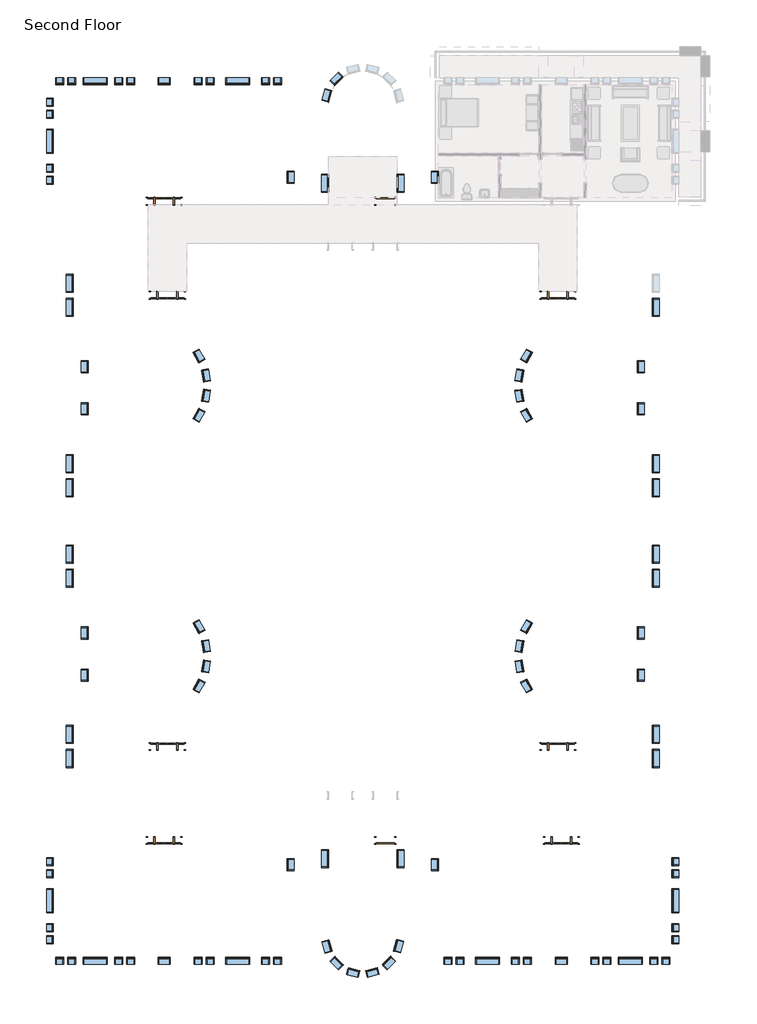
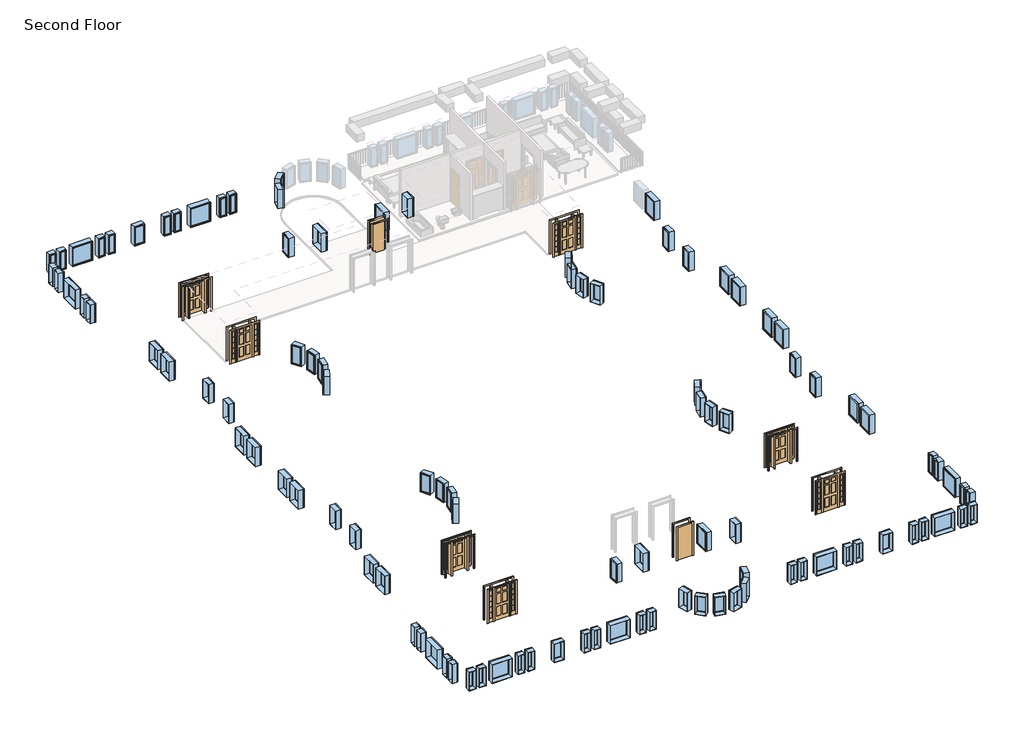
# One storey, part 1 of 2: 103 windows, 9 doors.
"""IFC4 building model written with IfcOpenShell, lengths in millimetres."""

from ifc_helpers import new_model, si_unit, origin, place, context, project, spatial, transform, mapped, element, save
from components import door_632be17d, door_cc5399a4, door_dba5aa2e, door_ffdb1193, window_da97879f, window_d61ef850, window_60baf983, window_ed80354a, window_15c49d37, window_0e2fc6ce, window_6eb97611, window_d89bf842

model = new_model("IFC4")

# Units and contexts
model_context = context("Model", 3, world=origin())
ifc_project = project(units=[si_unit("LENGTHUNIT", "METRE", prefix="MILLI")], contexts=[model_context])

# Site, building, storey
site = spatial("IfcSite", under=ifc_project)
building = spatial("IfcBuilding", under=site)
storey = spatial("IfcBuildingStorey", under=building, Name="Second Floor", Elevation=3048.0)

# Doors
placement = place(None, origin())
door_shape = door_632be17d(model_context)
element("IfcDoor", 1, ObjectType="Single-Flush : 36\" x 84\"", at=placement, inside=storey, context=model_context, shape_type="MappedRepresentation", body=[
    mapped(door_shape, transform((-13919.1714563, 4350.2316867, 3048.0), x_axis=(1.0, 0.0, 0.0), y_axis=(0.0, 1.0, 0.0), z_axis=(0.0, 0.0, 1.0))),
])
door_2_shape = door_cc5399a4(model_context)
element("IfcDoor", 2, ObjectType="Single-Flush : 36\" x 84\"", at=placement, inside=storey, context=model_context, shape_type="MappedRepresentation", body=[
    mapped(door_2_shape, transform((-13919.1714563, -28041.1183133, 3048.0), x_axis=(1.0, 0.0, 0.0), y_axis=(0.0, 1.0, 0.0), z_axis=(0.0, 0.0, 1.0))),
])
door_3_shape = door_dba5aa2e(model_context)
element("IfcDoor", 3, ObjectType="Single-Raised Panel with Sidelights : 36\" x 84\"", at=placement, inside=storey, context=model_context, shape_type="MappedRepresentation", body=[
    mapped(door_3_shape, transform((-24968.1714563, -415.4433133, 3048.0), x_axis=(1.0, 0.0, 0.0), y_axis=(0.0, 1.0, 0.0), z_axis=(0.0, 0.0, 1.0))),
])
element("IfcDoor", 4, ObjectType="Single-Raised Panel with Sidelights : 36\" x 84\"", at=placement, inside=storey, context=model_context, shape_type="MappedRepresentation", body=[
    mapped(door_3_shape, transform((-5156.1714563, -23275.4433133, 3048.0), x_axis=(-1.0, 0.0, 0.0), y_axis=(0.0, -1.0, 0.0), z_axis=(0.0, 0.0, 1.0))),
])
element("IfcDoor", 5, ObjectType="Single-Raised Panel with Sidelights : 36\" x 84\"", at=placement, inside=storey, context=model_context, shape_type="MappedRepresentation", body=[
    mapped(door_3_shape, transform((-25131.6839563, -28041.1183133, 3048.0), x_axis=(1.0, 0.0, 0.0), y_axis=(0.0, 1.0, 0.0), z_axis=(0.0, 0.0, 1.0))),
])
door_4_shape = door_ffdb1193(model_context)
element("IfcDoor", 6, ObjectType="Single-Raised Panel with Sidelights : 36\" x 84\"", at=placement, inside=storey, context=model_context, shape_type="MappedRepresentation", body=[
    mapped(door_4_shape, transform((-5156.1714563, -415.4433133, 3048.0), x_axis=(-1.0, 0.0, 0.0), y_axis=(0.0, -1.0, 0.0), z_axis=(0.0, 0.0, 1.0))),
])
element("IfcDoor", 7, ObjectType="Single-Raised Panel with Sidelights : 36\" x 84\"", at=placement, inside=storey, context=model_context, shape_type="MappedRepresentation", body=[
    mapped(door_4_shape, transform((-25131.6839563, 4350.2316867, 3048.0), x_axis=(1.0, 0.0, 0.0), y_axis=(0.0, 1.0, 0.0), z_axis=(0.0, 0.0, 1.0))),
])
element("IfcDoor", 8, ObjectType="Single-Raised Panel with Sidelights : 36\" x 84\"", at=placement, inside=storey, context=model_context, shape_type="MappedRepresentation", body=[
    mapped(door_4_shape, transform((-4992.6589563, -28041.1183133, 3048.0), x_axis=(-1.0, 0.0, 0.0), y_axis=(0.0, -1.0, 0.0), z_axis=(0.0, 0.0, 1.0))),
])
element("IfcDoor", 9, ObjectType="Single-Raised Panel with Sidelights : 36\" x 84\"", at=placement, inside=storey, context=model_context, shape_type="MappedRepresentation", body=[
    mapped(door_4_shape, transform((-24968.1714563, -23275.4433133, 3048.0), x_axis=(1.0, 0.0, 0.0), y_axis=(0.0, 1.0, 0.0), z_axis=(0.0, 0.0, 1.0))),
])

# Windows
window_shape = window_da97879f(model_context)
element("IfcWindow", 10, ObjectType="Fixed : 16\" x 48\"", at=placement, inside=storey, context=model_context, shape_type="MappedRepresentation", body=[
    mapped(window_shape, transform((-23442.5839563, 10446.2316867, 3048.0), x_axis=(-1.0, 0.0, 0.0), y_axis=(0.0, -1.0, 0.0), z_axis=(0.0, 0.0, 1.0))),
])
element("IfcWindow", 11, ObjectType="Fixed : 16\" x 48\"", at=placement, inside=storey, context=model_context, shape_type="MappedRepresentation", body=[
    mapped(window_shape, transform((-22832.9839563, 10446.2316867, 3048.0), x_axis=(-1.0, 0.0, 0.0), y_axis=(0.0, -1.0, 0.0), z_axis=(0.0, 0.0, 1.0))),
])
element("IfcWindow", 12, ObjectType="Fixed : 16\" x 48\"", at=placement, inside=storey, context=model_context, shape_type="MappedRepresentation", body=[
    mapped(window_shape, transform((-30478.3839563, 10446.2316867, 3048.0), x_axis=(-1.0, 0.0, 0.0), y_axis=(0.0, -1.0, 0.0), z_axis=(0.0, 0.0, 1.0))),
])
element("IfcWindow", 13, ObjectType="Fixed : 16\" x 48\"", at=placement, inside=storey, context=model_context, shape_type="MappedRepresentation", body=[
    mapped(window_shape, transform((-29868.7839563, 10446.2316867, 3048.0), x_axis=(-1.0, 0.0, 0.0), y_axis=(0.0, -1.0, 0.0), z_axis=(0.0, 0.0, 1.0))),
])
element("IfcWindow", 14, ObjectType="Fixed : 16\" x 48\"", at=placement, inside=storey, context=model_context, shape_type="MappedRepresentation", body=[
    mapped(window_shape, transform((-30922.8839563, 5378.9316867, 3048.0), x_axis=(0.0, -1.0, 0.0), y_axis=(1.0, 0.0, 0.0), z_axis=(0.0, 0.0, 1.0))),
])
element("IfcWindow", 15, ObjectType="Fixed : 16\" x 48\"", at=placement, inside=storey, context=model_context, shape_type="MappedRepresentation", body=[
    mapped(window_shape, transform((-30922.8839563, 5988.5316867, 3048.0), x_axis=(0.0, -1.0, 0.0), y_axis=(1.0, 0.0, 0.0), z_axis=(0.0, 0.0, 1.0))),
])
element("IfcWindow", 16, ObjectType="Fixed : 16\" x 48\"", at=placement, inside=storey, context=model_context, shape_type="MappedRepresentation", body=[
    mapped(window_shape, transform((-6681.7589563, -34137.1183133, 3048.0), x_axis=(1.0, 0.0, 0.0), y_axis=(0.0, 1.0, 0.0), z_axis=(0.0, 0.0, 1.0))),
])
element("IfcWindow", 17, ObjectType="Fixed : 16\" x 48\"", at=placement, inside=storey, context=model_context, shape_type="MappedRepresentation", body=[
    mapped(window_shape, transform((-7291.3589563, -34137.1183133, 3048.0), x_axis=(1.0, 0.0, 0.0), y_axis=(0.0, 1.0, 0.0), z_axis=(0.0, 0.0, 1.0))),
])
element("IfcWindow", 18, ObjectType="Fixed : 16\" x 48\"", at=placement, inside=storey, context=model_context, shape_type="MappedRepresentation", body=[
    mapped(window_shape, transform((354.0410437, -34137.1183133, 3048.0), x_axis=(1.0, 0.0, 0.0), y_axis=(0.0, 1.0, 0.0), z_axis=(0.0, 0.0, 1.0))),
])
element("IfcWindow", 19, ObjectType="Fixed : 16\" x 48\"", at=placement, inside=storey, context=model_context, shape_type="MappedRepresentation", body=[
    mapped(window_shape, transform((-255.5589563, -34137.1183133, 3048.0), x_axis=(1.0, 0.0, 0.0), y_axis=(0.0, 1.0, 0.0), z_axis=(0.0, 0.0, 1.0))),
])
element("IfcWindow", 20, ObjectType="Fixed : 16\" x 48\"", at=placement, inside=storey, context=model_context, shape_type="MappedRepresentation", body=[
    mapped(window_shape, transform((798.5410437, -29069.8183133, 3048.0), x_axis=(0.0, 1.0, 0.0), y_axis=(-1.0, 0.0, 0.0), z_axis=(0.0, 0.0, 1.0))),
])
element("IfcWindow", 21, ObjectType="Fixed : 16\" x 48\"", at=placement, inside=storey, context=model_context, shape_type="MappedRepresentation", body=[
    mapped(window_shape, transform((798.5410437, -29679.4183133, 3048.0), x_axis=(0.0, 1.0, 0.0), y_axis=(-1.0, 0.0, 0.0), z_axis=(0.0, 0.0, 1.0))),
])
element("IfcWindow", 22, ObjectType="Fixed : 16\" x 48\"", at=placement, inside=storey, context=model_context, shape_type="MappedRepresentation", body=[
    mapped(window_shape, transform((-19353.1839563, -34137.1183133, 3048.0), x_axis=(1.0, 0.0, 0.0), y_axis=(0.0, 1.0, 0.0), z_axis=(0.0, 0.0, 1.0))),
])
element("IfcWindow", 23, ObjectType="Fixed : 16\" x 48\"", at=placement, inside=storey, context=model_context, shape_type="MappedRepresentation", body=[
    mapped(window_shape, transform((-19962.7839563, -34137.1183133, 3048.0), x_axis=(1.0, 0.0, 0.0), y_axis=(0.0, 1.0, 0.0), z_axis=(0.0, 0.0, 1.0))),
])
element("IfcWindow", 24, ObjectType="Fixed : 16\" x 48\"", at=placement, inside=storey, context=model_context, shape_type="MappedRepresentation", body=[
    mapped(window_shape, transform((-26795.3839563, -34137.1183133, 3048.0), x_axis=(1.0, 0.0, 0.0), y_axis=(0.0, 1.0, 0.0), z_axis=(0.0, 0.0, 1.0))),
])
element("IfcWindow", 25, ObjectType="Fixed : 16\" x 48\"", at=placement, inside=storey, context=model_context, shape_type="MappedRepresentation", body=[
    mapped(window_shape, transform((-27404.9839563, -34137.1183133, 3048.0), x_axis=(1.0, 0.0, 0.0), y_axis=(0.0, 1.0, 0.0), z_axis=(0.0, 0.0, 1.0))),
])
element("IfcWindow", 26, ObjectType="Fixed : 16\" x 48\"", at=placement, inside=storey, context=model_context, shape_type="MappedRepresentation", body=[
    mapped(window_shape, transform((-30922.8839563, -33108.4183133, 3048.0), x_axis=(0.0, -1.0, 0.0), y_axis=(1.0, 0.0, 0.0), z_axis=(0.0, 0.0, 1.0))),
])
element("IfcWindow", 27, ObjectType="Fixed : 16\" x 48\"", at=placement, inside=storey, context=model_context, shape_type="MappedRepresentation", body=[
    mapped(window_shape, transform((-30922.8839563, -32498.8183133, 3048.0), x_axis=(0.0, -1.0, 0.0), y_axis=(1.0, 0.0, 0.0), z_axis=(0.0, 0.0, 1.0))),
])
window_2_shape = window_d61ef850(model_context)
element("IfcWindow", 28, ObjectType="Fixed : 16\" x 48\"", at=placement, inside=storey, context=model_context, shape_type="MappedRepresentation", body=[
    mapped(window_2_shape, transform((-19353.1839563, 10446.2316867, 3048.0), x_axis=(1.0, 0.0, 0.0), y_axis=(0.0, 1.0, 0.0), z_axis=(0.0, 0.0, 1.0))),
])
element("IfcWindow", 29, ObjectType="Fixed : 16\" x 48\"", at=placement, inside=storey, context=model_context, shape_type="MappedRepresentation", body=[
    mapped(window_2_shape, transform((-19962.7839563, 10446.2316867, 3048.0), x_axis=(1.0, 0.0, 0.0), y_axis=(0.0, 1.0, 0.0), z_axis=(0.0, 0.0, 1.0))),
])
element("IfcWindow", 30, ObjectType="Fixed : 16\" x 48\"", at=placement, inside=storey, context=model_context, shape_type="MappedRepresentation", body=[
    mapped(window_2_shape, transform((-26795.3839563, 10446.2316867, 3048.0), x_axis=(1.0, 0.0, 0.0), y_axis=(0.0, 1.0, 0.0), z_axis=(0.0, 0.0, 1.0))),
])
element("IfcWindow", 31, ObjectType="Fixed : 16\" x 48\"", at=placement, inside=storey, context=model_context, shape_type="MappedRepresentation", body=[
    mapped(window_2_shape, transform((-27404.9839563, 10446.2316867, 3048.0), x_axis=(1.0, 0.0, 0.0), y_axis=(0.0, 1.0, 0.0), z_axis=(0.0, 0.0, 1.0))),
])
element("IfcWindow", 32, ObjectType="Fixed : 16\" x 48\"", at=placement, inside=storey, context=model_context, shape_type="MappedRepresentation", body=[
    mapped(window_2_shape, transform((-30922.8839563, 9417.5316867, 3048.0), x_axis=(0.0, 1.0, 0.0), y_axis=(-1.0, 0.0, 0.0), z_axis=(0.0, 0.0, 1.0))),
])
element("IfcWindow", 33, ObjectType="Fixed : 16\" x 48\"", at=placement, inside=storey, context=model_context, shape_type="MappedRepresentation", body=[
    mapped(window_2_shape, transform((-30922.8839563, 8807.9316867, 3048.0), x_axis=(0.0, 1.0, 0.0), y_axis=(-1.0, 0.0, 0.0), z_axis=(0.0, 0.0, 1.0))),
])
element("IfcWindow", 34, ObjectType="Fixed : 16\" x 48\"", at=placement, inside=storey, context=model_context, shape_type="MappedRepresentation", body=[
    mapped(window_2_shape, transform((-10771.1589563, -34137.1183133, 3048.0), x_axis=(-1.0, 0.0, 0.0), y_axis=(0.0, -1.0, 0.0), z_axis=(0.0, 0.0, 1.0))),
])
element("IfcWindow", 35, ObjectType="Fixed : 16\" x 48\"", at=placement, inside=storey, context=model_context, shape_type="MappedRepresentation", body=[
    mapped(window_2_shape, transform((-10161.5589563, -34137.1183133, 3048.0), x_axis=(-1.0, 0.0, 0.0), y_axis=(0.0, -1.0, 0.0), z_axis=(0.0, 0.0, 1.0))),
])
element("IfcWindow", 36, ObjectType="Fixed : 16\" x 48\"", at=placement, inside=storey, context=model_context, shape_type="MappedRepresentation", body=[
    mapped(window_2_shape, transform((-3328.9589563, -34137.1183133, 3048.0), x_axis=(-1.0, 0.0, 0.0), y_axis=(0.0, -1.0, 0.0), z_axis=(0.0, 0.0, 1.0))),
])
element("IfcWindow", 37, ObjectType="Fixed : 16\" x 48\"", at=placement, inside=storey, context=model_context, shape_type="MappedRepresentation", body=[
    mapped(window_2_shape, transform((-2719.3589563, -34137.1183133, 3048.0), x_axis=(-1.0, 0.0, 0.0), y_axis=(0.0, -1.0, 0.0), z_axis=(0.0, 0.0, 1.0))),
])
element("IfcWindow", 38, ObjectType="Fixed : 16\" x 48\"", at=placement, inside=storey, context=model_context, shape_type="MappedRepresentation", body=[
    mapped(window_2_shape, transform((798.5410437, -33108.4183133, 3048.0), x_axis=(0.0, -1.0, 0.0), y_axis=(1.0, 0.0, 0.0), z_axis=(0.0, 0.0, 1.0))),
])
element("IfcWindow", 39, ObjectType="Fixed : 16\" x 48\"", at=placement, inside=storey, context=model_context, shape_type="MappedRepresentation", body=[
    mapped(window_2_shape, transform((798.5410437, -32498.8183133, 3048.0), x_axis=(0.0, -1.0, 0.0), y_axis=(1.0, 0.0, 0.0), z_axis=(0.0, 0.0, 1.0))),
])
element("IfcWindow", 40, ObjectType="Fixed : 16\" x 48\"", at=placement, inside=storey, context=model_context, shape_type="MappedRepresentation", body=[
    mapped(window_2_shape, transform((-23442.5839563, -34137.1183133, 3048.0), x_axis=(-1.0, 0.0, 0.0), y_axis=(0.0, -1.0, 0.0), z_axis=(0.0, 0.0, 1.0))),
])
element("IfcWindow", 41, ObjectType="Fixed : 16\" x 48\"", at=placement, inside=storey, context=model_context, shape_type="MappedRepresentation", body=[
    mapped(window_2_shape, transform((-22832.9839563, -34137.1183133, 3048.0), x_axis=(-1.0, 0.0, 0.0), y_axis=(0.0, -1.0, 0.0), z_axis=(0.0, 0.0, 1.0))),
])
element("IfcWindow", 42, ObjectType="Fixed : 16\" x 48\"", at=placement, inside=storey, context=model_context, shape_type="MappedRepresentation", body=[
    mapped(window_2_shape, transform((-30478.3839563, -34137.1183133, 3048.0), x_axis=(-1.0, 0.0, 0.0), y_axis=(0.0, -1.0, 0.0), z_axis=(0.0, 0.0, 1.0))),
])
element("IfcWindow", 43, ObjectType="Fixed : 16\" x 48\"", at=placement, inside=storey, context=model_context, shape_type="MappedRepresentation", body=[
    mapped(window_2_shape, transform((-29868.7839563, -34137.1183133, 3048.0), x_axis=(-1.0, 0.0, 0.0), y_axis=(0.0, -1.0, 0.0), z_axis=(0.0, 0.0, 1.0))),
])
element("IfcWindow", 44, ObjectType="Fixed : 16\" x 48\"", at=placement, inside=storey, context=model_context, shape_type="MappedRepresentation", body=[
    mapped(window_2_shape, transform((-30922.8839563, -29069.8183133, 3048.0), x_axis=(0.0, 1.0, 0.0), y_axis=(-1.0, 0.0, 0.0), z_axis=(0.0, 0.0, 1.0))),
])
element("IfcWindow", 45, ObjectType="Fixed : 16\" x 48\"", at=placement, inside=storey, context=model_context, shape_type="MappedRepresentation", body=[
    mapped(window_2_shape, transform((-30922.8839563, -29679.4183133, 3048.0), x_axis=(0.0, 1.0, 0.0), y_axis=(-1.0, 0.0, 0.0), z_axis=(0.0, 0.0, 1.0))),
])
window_3_shape = window_60baf983(model_context)
element("IfcWindow", 46, ObjectType="Fixed : 24\" x 48\"", at=placement, inside=storey, context=model_context, shape_type="MappedRepresentation", body=[
    mapped(window_3_shape, transform((-11393.4589563, 5531.3316867, 3048.0), x_axis=(0.0, -1.0, 0.0), y_axis=(1.0, 0.0, 0.0), z_axis=(0.0, 0.0, 1.0))),
])
element("IfcWindow", 47, ObjectType="Fixed : 24\" x 48\"", at=placement, inside=storey, context=model_context, shape_type="MappedRepresentation", body=[
    mapped(window_3_shape, transform((-16889.064163, 9683.0417496, 3048.0), x_axis=(-0.26176149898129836, -0.9651325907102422, 0.0), y_axis=(0.9651325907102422, -0.26176149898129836, 0.0), z_axis=(0.0, 0.0, 1.0))),
])
element("IfcWindow", 48, ObjectType="Fixed : 24\" x 48\"", at=placement, inside=storey, context=model_context, shape_type="MappedRepresentation", body=[
    mapped(window_3_shape, transform((-16416.3019188, 10535.3943388, 3048.0), x_axis=(-0.7092584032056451, -0.7049485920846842, 0.0), y_axis=(0.7049485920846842, -0.7092584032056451, 0.0), z_axis=(0.0, 0.0, 1.0))),
])
element("IfcWindow", 49, ObjectType="Fixed : 24\" x 48\"", at=placement, inside=storey, context=model_context, shape_type="MappedRepresentation", body=[
    mapped(window_3_shape, transform((-6775.1467215, -3515.2965337, 3048.0), x_axis=(-0.49619108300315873, -0.8682133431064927, 0.0), y_axis=(0.8682133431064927, -0.49619108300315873, 0.0), z_axis=(0.0, 0.0, 1.0))),
])
element("IfcWindow", 50, ObjectType="Fixed : 24\" x 48\"", at=placement, inside=storey, context=model_context, shape_type="MappedRepresentation", body=[
    mapped(window_3_shape, transform((-7118.4751134, -4510.097297, 3048.0), x_axis=(-0.16973229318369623, -0.9854902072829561, 0.0), y_axis=(0.9854902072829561, -0.16973229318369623, 0.0), z_axis=(0.0, 0.0, 1.0))),
])
element("IfcWindow", 51, ObjectType="Fixed : 24\" x 48\"", at=placement, inside=storey, context=model_context, shape_type="MappedRepresentation", body=[
    mapped(window_3_shape, transform((-29159.1714563, -4071.4558133, 3048.0), x_axis=(0.0, -1.0, 0.0), y_axis=(1.0, 0.0, 0.0), z_axis=(0.0, 0.0, 1.0))),
])
element("IfcWindow", 52, ObjectType="Fixed : 24\" x 48\"", at=placement, inside=storey, context=model_context, shape_type="MappedRepresentation", body=[
    mapped(window_3_shape, transform((-29159.1714563, -6205.0558133, 3048.0), x_axis=(0.0, -1.0, 0.0), y_axis=(1.0, 0.0, 0.0), z_axis=(0.0, 0.0, 1.0))),
])
element("IfcWindow", 53, ObjectType="Fixed : 24\" x 48\"", at=placement, inside=storey, context=model_context, shape_type="MappedRepresentation", body=[
    mapped(window_3_shape, transform((-23350.7429238, -6458.7061225, 3048.0), x_axis=(0.49619108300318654, 0.8682133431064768, 0.0), y_axis=(-0.8682133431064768, 0.49619108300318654, 0.0), z_axis=(0.0, 0.0, 1.0))),
])
element("IfcWindow", 54, ObjectType="Fixed : 24\" x 48\"", at=placement, inside=storey, context=model_context, shape_type="MappedRepresentation", body=[
    mapped(window_3_shape, transform((-23007.6234621, -5464.4869495, 3048.0), x_axis=(0.16973229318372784, 0.9854902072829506, 0.0), y_axis=(-0.9854902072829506, 0.16973229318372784, 0.0), z_axis=(0.0, 0.0, 1.0))),
])
element("IfcWindow", 55, ObjectType="Fixed : 24\" x 48\"", at=placement, inside=storey, context=model_context, shape_type="MappedRepresentation", body=[
    mapped(window_3_shape, transform((-965.1714563, -19619.4308133, 3048.0), x_axis=(0.0, 1.0, 0.0), y_axis=(-1.0, 0.0, 0.0), z_axis=(0.0, 0.0, 1.0))),
])
element("IfcWindow", 56, ObjectType="Fixed : 24\" x 48\"", at=placement, inside=storey, context=model_context, shape_type="MappedRepresentation", body=[
    mapped(window_3_shape, transform((-965.1714563, -17485.8308133, 3048.0), x_axis=(0.0, 1.0, 0.0), y_axis=(-1.0, 0.0, 0.0), z_axis=(0.0, 0.0, 1.0))),
])
element("IfcWindow", 57, ObjectType="Fixed : 24\" x 48\"", at=placement, inside=storey, context=model_context, shape_type="MappedRepresentation", body=[
    mapped(window_3_shape, transform((-6773.5999888, -17232.1805042, 3048.0), x_axis=(-0.49619108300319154, -0.8682133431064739, 0.0), y_axis=(0.8682133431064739, -0.49619108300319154, 0.0), z_axis=(0.0, 0.0, 1.0))),
])
element("IfcWindow", 58, ObjectType="Fixed : 24\" x 48\"", at=placement, inside=storey, context=model_context, shape_type="MappedRepresentation", body=[
    mapped(window_3_shape, transform((-7116.7194505, -18226.3996771, 3048.0), x_axis=(-0.16973229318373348, -0.9854902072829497, 0.0), y_axis=(0.9854902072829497, -0.16973229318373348, 0.0), z_axis=(0.0, 0.0, 1.0))),
])
element("IfcWindow", 59, ObjectType="Fixed : 24\" x 48\"", at=placement, inside=storey, context=model_context, shape_type="MappedRepresentation", body=[
    mapped(window_3_shape, transform((-25093.5839563, -34137.1183133, 3048.0), x_axis=(1.0, 0.0, 0.0), y_axis=(0.0, 1.0, 0.0), z_axis=(0.0, 0.0, 1.0))),
])
element("IfcWindow", 60, ObjectType="Fixed : 24\" x 48\"", at=placement, inside=storey, context=model_context, shape_type="MappedRepresentation", body=[
    mapped(window_3_shape, transform((-18730.8839563, -29222.2183133, 3048.0), x_axis=(0.0, 1.0, 0.0), y_axis=(-1.0, 0.0, 0.0), z_axis=(0.0, 0.0, 1.0))),
])
element("IfcWindow", 61, ObjectType="Fixed : 24\" x 48\"", at=placement, inside=storey, context=model_context, shape_type="MappedRepresentation", body=[
    mapped(window_3_shape, transform((-23349.1961911, -20175.5900929, 3048.0), x_axis=(0.4961910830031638, 0.8682133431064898, 0.0), y_axis=(-0.8682133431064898, 0.4961910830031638, 0.0), z_axis=(0.0, 0.0, 1.0))),
])
element("IfcWindow", 62, ObjectType="Fixed : 24\" x 48\"", at=placement, inside=storey, context=model_context, shape_type="MappedRepresentation", body=[
    mapped(window_3_shape, transform((-23005.8677992, -19180.7893296, 3048.0), x_axis=(0.169732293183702, 0.9854902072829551, 0.0), y_axis=(-0.9854902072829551, 0.169732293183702, 0.0), z_axis=(0.0, 0.0, 1.0))),
])
window_4_shape = window_ed80354a(model_context)
element("IfcWindow", 63, ObjectType="Fixed : 24\" x 48\"", at=placement, inside=storey, context=model_context, shape_type="MappedRepresentation", body=[
    mapped(window_4_shape, transform((-965.1714563, -4071.4558133, 3048.0), x_axis=(0.0, -1.0, 0.0), y_axis=(1.0, 0.0, 0.0), z_axis=(0.0, 0.0, 1.0))),
])
element("IfcWindow", 64, ObjectType="Fixed : 24\" x 48\"", at=placement, inside=storey, context=model_context, shape_type="MappedRepresentation", body=[
    mapped(window_4_shape, transform((-965.1714563, -6205.0558133, 3048.0), x_axis=(0.0, -1.0, 0.0), y_axis=(1.0, 0.0, 0.0), z_axis=(0.0, 0.0, 1.0))),
])
element("IfcWindow", 65, ObjectType="Fixed : 24\" x 48\"", at=placement, inside=storey, context=model_context, shape_type="MappedRepresentation", body=[
    mapped(window_4_shape, transform((-6775.1467215, -6459.5900929, 3048.0), x_axis=(-0.49619108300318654, 0.8682133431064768, 0.0), y_axis=(-0.8682133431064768, -0.49619108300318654, 0.0), z_axis=(0.0, 0.0, 1.0))),
])
element("IfcWindow", 66, ObjectType="Fixed : 24\" x 48\"", at=placement, inside=storey, context=model_context, shape_type="MappedRepresentation", body=[
    mapped(window_4_shape, transform((-7118.4751134, -5464.7893296, 3048.0), x_axis=(-0.16973229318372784, 0.9854902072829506, 0.0), y_axis=(-0.9854902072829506, -0.16973229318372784, 0.0), z_axis=(0.0, 0.0, 1.0))),
])
element("IfcWindow", 67, ObjectType="Fixed : 24\" x 48\"", at=placement, inside=storey, context=model_context, shape_type="MappedRepresentation", body=[
    mapped(window_4_shape, transform((-25093.5839563, 10446.2316867, 3048.0), x_axis=(1.0, 0.0, 0.0), y_axis=(0.0, 1.0, 0.0), z_axis=(0.0, 0.0, 1.0))),
])
element("IfcWindow", 68, ObjectType="Fixed : 24\" x 48\"", at=placement, inside=storey, context=model_context, shape_type="MappedRepresentation", body=[
    mapped(window_4_shape, transform((-18730.8839563, 5531.3316867, 3048.0), x_axis=(0.0, -1.0, 0.0), y_axis=(1.0, 0.0, 0.0), z_axis=(0.0, 0.0, 1.0))),
])
element("IfcWindow", 69, ObjectType="Fixed : 24\" x 48\"", at=placement, inside=storey, context=model_context, shape_type="MappedRepresentation", body=[
    mapped(window_4_shape, transform((-23350.7429238, -3516.1805042, 3048.0), x_axis=(0.49619108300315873, -0.8682133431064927, 0.0), y_axis=(0.8682133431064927, 0.49619108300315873, 0.0), z_axis=(0.0, 0.0, 1.0))),
])
element("IfcWindow", 70, ObjectType="Fixed : 24\" x 48\"", at=placement, inside=storey, context=model_context, shape_type="MappedRepresentation", body=[
    mapped(window_4_shape, transform((-23007.6234621, -4510.3996771, 3048.0), x_axis=(0.16973229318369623, -0.9854902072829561, 0.0), y_axis=(0.9854902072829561, 0.16973229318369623, 0.0), z_axis=(0.0, 0.0, 1.0))),
])
element("IfcWindow", 71, ObjectType="Fixed : 24\" x 48\"", at=placement, inside=storey, context=model_context, shape_type="MappedRepresentation", body=[
    mapped(window_4_shape, transform((-5030.7589563, -34137.1183133, 3048.0), x_axis=(-1.0, 0.0, 0.0), y_axis=(0.0, -1.0, 0.0), z_axis=(0.0, 0.0, 1.0))),
])
element("IfcWindow", 72, ObjectType="Fixed : 24\" x 48\"", at=placement, inside=storey, context=model_context, shape_type="MappedRepresentation", body=[
    mapped(window_4_shape, transform((-11393.4589563, -29222.2183133, 3048.0), x_axis=(0.0, 1.0, 0.0), y_axis=(-1.0, 0.0, 0.0), z_axis=(0.0, 0.0, 1.0))),
])
element("IfcWindow", 73, ObjectType="Fixed : 24\" x 48\"", at=placement, inside=storey, context=model_context, shape_type="MappedRepresentation", body=[
    mapped(window_4_shape, transform((-16884.5848795, -33372.7135131, 3048.0), x_axis=(-0.26176149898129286, 0.9651325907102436, 0.0), y_axis=(-0.9651325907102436, -0.26176149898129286, 0.0), z_axis=(0.0, 0.0, 1.0))),
])
element("IfcWindow", 74, ObjectType="Fixed : 24\" x 48\"", at=placement, inside=storey, context=model_context, shape_type="MappedRepresentation", body=[
    mapped(window_4_shape, transform((-16413.0301771, -34222.9892215, 3048.0), x_axis=(-0.7092584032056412, 0.7049485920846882, 0.0), y_axis=(-0.7049485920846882, -0.7092584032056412, 0.0), z_axis=(0.0, 0.0, 1.0))),
])
element("IfcWindow", 75, ObjectType="Fixed : 24\" x 48\"", at=placement, inside=storey, context=model_context, shape_type="MappedRepresentation", body=[
    mapped(window_4_shape, transform((-15579.5139714, -34723.5722339, 3048.0), x_axis=(-0.966710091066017, 0.2558741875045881, 0.0), y_axis=(-0.2558741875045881, -0.966710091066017, 0.0), z_axis=(0.0, 0.0, 1.0))),
])
element("IfcWindow", 76, ObjectType="Fixed : 24\" x 48\"", at=placement, inside=storey, context=model_context, shape_type="MappedRepresentation", body=[
    mapped(window_4_shape, transform((-14607.3762565, -34740.3317365, 3048.0), x_axis=(-0.9651325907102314, -0.2617614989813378, 0.0), y_axis=(0.2617614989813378, -0.9651325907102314, 0.0), z_axis=(0.0, 0.0, 1.0))),
])
element("IfcWindow", 77, ObjectType="Fixed : 24\" x 48\"", at=placement, inside=storey, context=model_context, shape_type="MappedRepresentation", body=[
    mapped(window_4_shape, transform((-13757.1005482, -34268.7770341, 3048.0), x_axis=(-0.7049485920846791, -0.7092584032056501, 0.0), y_axis=(0.7092584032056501, -0.7049485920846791, 0.0), z_axis=(0.0, 0.0, 1.0))),
])
element("IfcWindow", 78, ObjectType="Fixed : 24\" x 48\"", at=placement, inside=storey, context=model_context, shape_type="MappedRepresentation", body=[
    mapped(window_4_shape, transform((-13256.5175357, -33435.2608284, 3048.0), x_axis=(-0.25587418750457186, -0.9667100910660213, 0.0), y_axis=(0.9667100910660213, -0.25587418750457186, 0.0), z_axis=(0.0, 0.0, 1.0))),
])
element("IfcWindow", 79, ObjectType="Fixed : 24\" x 48\"", at=placement, inside=storey, context=model_context, shape_type="MappedRepresentation", body=[
    mapped(window_4_shape, transform((-6773.5999888, -20174.7061225, 3048.0), x_axis=(-0.49619108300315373, 0.8682133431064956, 0.0), y_axis=(-0.8682133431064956, -0.49619108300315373, 0.0), z_axis=(0.0, 0.0, 1.0))),
])
element("IfcWindow", 80, ObjectType="Fixed : 24\" x 48\"", at=placement, inside=storey, context=model_context, shape_type="MappedRepresentation", body=[
    mapped(window_4_shape, transform((-7116.7194505, -19180.4869495, 3048.0), x_axis=(-0.1697322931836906, 0.985490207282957, 0.0), y_axis=(-0.985490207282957, -0.1697322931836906, 0.0), z_axis=(0.0, 0.0, 1.0))),
])
element("IfcWindow", 81, ObjectType="Fixed : 24\" x 48\"", at=placement, inside=storey, context=model_context, shape_type="MappedRepresentation", body=[
    mapped(window_4_shape, transform((-29159.1714563, -19619.4308133, 3048.0), x_axis=(0.0, 1.0, 0.0), y_axis=(-1.0, 0.0, 0.0), z_axis=(0.0, 0.0, 1.0))),
])
element("IfcWindow", 82, ObjectType="Fixed : 24\" x 48\"", at=placement, inside=storey, context=model_context, shape_type="MappedRepresentation", body=[
    mapped(window_4_shape, transform((-29159.1714563, -17485.8308133, 3048.0), x_axis=(0.0, 1.0, 0.0), y_axis=(-1.0, 0.0, 0.0), z_axis=(0.0, 0.0, 1.0))),
])
element("IfcWindow", 83, ObjectType="Fixed : 24\" x 48\"", at=placement, inside=storey, context=model_context, shape_type="MappedRepresentation", body=[
    mapped(window_4_shape, transform((-23349.1961911, -17231.2965337, 3048.0), x_axis=(0.4961910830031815, -0.8682133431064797, 0.0), y_axis=(0.8682133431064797, 0.4961910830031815, 0.0), z_axis=(0.0, 0.0, 1.0))),
])
element("IfcWindow", 84, ObjectType="Fixed : 24\" x 48\"", at=placement, inside=storey, context=model_context, shape_type="MappedRepresentation", body=[
    mapped(window_4_shape, transform((-23005.8677992, -18226.097297, 3048.0), x_axis=(0.16973229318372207, -0.9854902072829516, 0.0), y_axis=(0.9854902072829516, 0.16973229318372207, 0.0), z_axis=(0.0, 0.0, 1.0))),
])
window_5_shape = window_15c49d37(model_context)
element("IfcWindow", 85, ObjectType="Fixed : 36\" x 48\"", at=placement, inside=storey, context=model_context, shape_type="MappedRepresentation", body=[
    mapped(window_5_shape, transform((-16967.1714563, 5226.5316867, 3048.0), x_axis=(0.0, -1.0, 0.0), y_axis=(1.0, 0.0, 0.0), z_axis=(0.0, 0.0, 1.0))),
])
element("IfcWindow", 86, ObjectType="Fixed : 36\" x 48\"", at=placement, inside=storey, context=model_context, shape_type="MappedRepresentation", body=[
    mapped(window_5_shape, transform((-13157.1714563, 5302.7316867, 3048.0), x_axis=(0.0, 1.0, 0.0), y_axis=(-1.0, 0.0, 0.0), z_axis=(0.0, 0.0, 1.0))),
])
element("IfcWindow", 87, ObjectType="Fixed : 36\" x 48\"", at=placement, inside=storey, context=model_context, shape_type="MappedRepresentation", body=[
    mapped(window_5_shape, transform((-29921.1714563, -10207.1433133, 3048.0), x_axis=(0.0, -1.0, 0.0), y_axis=(1.0, 0.0, 0.0), z_axis=(0.0, 0.0, 1.0))),
])
element("IfcWindow", 88, ObjectType="Fixed : 36\" x 48\"", at=placement, inside=storey, context=model_context, shape_type="MappedRepresentation", body=[
    mapped(window_5_shape, transform((-29921.1714563, -8987.9433133, 3048.0), x_axis=(0.0, -1.0, 0.0), y_axis=(1.0, 0.0, 0.0), z_axis=(0.0, 0.0, 1.0))),
])
element("IfcWindow", 89, ObjectType="Fixed : 36\" x 48\"", at=placement, inside=storey, context=model_context, shape_type="MappedRepresentation", body=[
    mapped(window_5_shape, transform((-29921.1714563, 156.0566867, 3048.0), x_axis=(0.0, -1.0, 0.0), y_axis=(1.0, 0.0, 0.0), z_axis=(0.0, 0.0, 1.0))),
])
element("IfcWindow", 90, ObjectType="Fixed : 36\" x 48\"", at=placement, inside=storey, context=model_context, shape_type="MappedRepresentation", body=[
    mapped(window_5_shape, transform((-29921.1714563, -1063.1433133, 3048.0), x_axis=(0.0, -1.0, 0.0), y_axis=(1.0, 0.0, 0.0), z_axis=(0.0, 0.0, 1.0))),
])
element("IfcWindow", 91, ObjectType="Fixed : 36\" x 48\"", at=placement, inside=storey, context=model_context, shape_type="MappedRepresentation", body=[
    mapped(window_5_shape, transform((-203.1714563, -13483.7433133, 3048.0), x_axis=(0.0, 1.0, 0.0), y_axis=(-1.0, 0.0, 0.0), z_axis=(0.0, 0.0, 1.0))),
])
element("IfcWindow", 92, ObjectType="Fixed : 36\" x 48\"", at=placement, inside=storey, context=model_context, shape_type="MappedRepresentation", body=[
    mapped(window_5_shape, transform((-203.1714563, -14702.9433133, 3048.0), x_axis=(0.0, 1.0, 0.0), y_axis=(-1.0, 0.0, 0.0), z_axis=(0.0, 0.0, 1.0))),
])
element("IfcWindow", 93, ObjectType="Fixed : 36\" x 48\"", at=placement, inside=storey, context=model_context, shape_type="MappedRepresentation", body=[
    mapped(window_5_shape, transform((-203.1714563, -23846.9433133, 3048.0), x_axis=(0.0, 1.0, 0.0), y_axis=(-1.0, 0.0, 0.0), z_axis=(0.0, 0.0, 1.0))),
])
element("IfcWindow", 94, ObjectType="Fixed : 36\" x 48\"", at=placement, inside=storey, context=model_context, shape_type="MappedRepresentation", body=[
    mapped(window_5_shape, transform((-203.1714563, -22627.7433133, 3048.0), x_axis=(0.0, 1.0, 0.0), y_axis=(-1.0, 0.0, 0.0), z_axis=(0.0, 0.0, 1.0))),
])
window_6_shape = window_0e2fc6ce(model_context)
element("IfcWindow", 95, ObjectType="Fixed : 36\" x 48\"", at=placement, inside=storey, context=model_context, shape_type="MappedRepresentation", body=[
    mapped(window_6_shape, transform((-203.1714563, -10207.1433133, 3048.0), x_axis=(0.0, -1.0, 0.0), y_axis=(1.0, 0.0, 0.0), z_axis=(0.0, 0.0, 1.0))),
])
element("IfcWindow", 96, ObjectType="Fixed : 36\" x 48\"", at=placement, inside=storey, context=model_context, shape_type="MappedRepresentation", body=[
    mapped(window_6_shape, transform((-203.1714563, -8987.9433133, 3048.0), x_axis=(0.0, -1.0, 0.0), y_axis=(1.0, 0.0, 0.0), z_axis=(0.0, 0.0, 1.0))),
])
element("IfcWindow", 97, ObjectType="Fixed : 36\" x 48\"", at=placement, inside=storey, context=model_context, shape_type="MappedRepresentation", body=[
    mapped(window_6_shape, transform((-203.1714563, -1063.1433133, 3048.0), x_axis=(0.0, -1.0, 0.0), y_axis=(1.0, 0.0, 0.0), z_axis=(0.0, 0.0, 1.0))),
])
element("IfcWindow", 98, ObjectType="Fixed : 36\" x 48\"", at=placement, inside=storey, context=model_context, shape_type="MappedRepresentation", body=[
    mapped(window_6_shape, transform((-16967.1714563, -28917.4183133, 3048.0), x_axis=(0.0, 1.0, 0.0), y_axis=(-1.0, 0.0, 0.0), z_axis=(0.0, 0.0, 1.0))),
])
element("IfcWindow", 99, ObjectType="Fixed : 36\" x 48\"", at=placement, inside=storey, context=model_context, shape_type="MappedRepresentation", body=[
    mapped(window_6_shape, transform((-13157.1714563, -28993.6183133, 3048.0), x_axis=(0.0, -1.0, 0.0), y_axis=(1.0, 0.0, 0.0), z_axis=(0.0, 0.0, 1.0))),
])
element("IfcWindow", 100, ObjectType="Fixed : 36\" x 48\"", at=placement, inside=storey, context=model_context, shape_type="MappedRepresentation", body=[
    mapped(window_6_shape, transform((-29921.1714563, -13483.7433133, 3048.0), x_axis=(0.0, 1.0, 0.0), y_axis=(-1.0, 0.0, 0.0), z_axis=(0.0, 0.0, 1.0))),
])
element("IfcWindow", 101, ObjectType="Fixed : 36\" x 48\"", at=placement, inside=storey, context=model_context, shape_type="MappedRepresentation", body=[
    mapped(window_6_shape, transform((-29921.1714563, -14702.9433133, 3048.0), x_axis=(0.0, 1.0, 0.0), y_axis=(-1.0, 0.0, 0.0), z_axis=(0.0, 0.0, 1.0))),
])
element("IfcWindow", 102, ObjectType="Fixed : 36\" x 48\"", at=placement, inside=storey, context=model_context, shape_type="MappedRepresentation", body=[
    mapped(window_6_shape, transform((-29921.1714563, -23846.9433133, 3048.0), x_axis=(0.0, 1.0, 0.0), y_axis=(-1.0, 0.0, 0.0), z_axis=(0.0, 0.0, 1.0))),
])
element("IfcWindow", 103, ObjectType="Fixed : 36\" x 48\"", at=placement, inside=storey, context=model_context, shape_type="MappedRepresentation", body=[
    mapped(window_6_shape, transform((-29921.1714563, -22627.7433133, 3048.0), x_axis=(0.0, 1.0, 0.0), y_axis=(-1.0, 0.0, 0.0), z_axis=(0.0, 0.0, 1.0))),
])
window_7_shape = window_6eb97611(model_context)
element("IfcWindow", 104, ObjectType="Fixed : 48\" x 48\"", at=placement, inside=storey, context=model_context, shape_type="MappedRepresentation", body=[
    mapped(window_7_shape, transform((-21359.7839563, -34137.1183133, 3048.0), x_axis=(1.0, 0.0, 0.0), y_axis=(0.0, 1.0, 0.0), z_axis=(0.0, 0.0, 1.0))),
])
element("IfcWindow", 105, ObjectType="Fixed : 48\" x 48\"", at=placement, inside=storey, context=model_context, shape_type="MappedRepresentation", body=[
    mapped(window_7_shape, transform((-28598.7839563, -34137.1183133, 3048.0), x_axis=(1.0, 0.0, 0.0), y_axis=(0.0, 1.0, 0.0), z_axis=(0.0, 0.0, 1.0))),
])
element("IfcWindow", 106, ObjectType="Fixed : 48\" x 48\"", at=placement, inside=storey, context=model_context, shape_type="MappedRepresentation", body=[
    mapped(window_7_shape, transform((-30922.8839563, -31127.2183133, 3048.0), x_axis=(0.0, -1.0, 0.0), y_axis=(1.0, 0.0, 0.0), z_axis=(0.0, 0.0, 1.0))),
])
window_8_shape = window_d89bf842(model_context)
element("IfcWindow", 107, ObjectType="Fixed : 48\" x 48\"", at=placement, inside=storey, context=model_context, shape_type="MappedRepresentation", body=[
    mapped(window_8_shape, transform((-21359.7839563, 10446.2316867, 3048.0), x_axis=(1.0, 0.0, 0.0), y_axis=(0.0, 1.0, 0.0), z_axis=(0.0, 0.0, 1.0))),
])
element("IfcWindow", 108, ObjectType="Fixed : 48\" x 48\"", at=placement, inside=storey, context=model_context, shape_type="MappedRepresentation", body=[
    mapped(window_8_shape, transform((-28598.7839563, 10446.2316867, 3048.0), x_axis=(1.0, 0.0, 0.0), y_axis=(0.0, 1.0, 0.0), z_axis=(0.0, 0.0, 1.0))),
])
element("IfcWindow", 109, ObjectType="Fixed : 48\" x 48\"", at=placement, inside=storey, context=model_context, shape_type="MappedRepresentation", body=[
    mapped(window_8_shape, transform((-30922.8839563, 7436.3316867, 3048.0), x_axis=(0.0, 1.0, 0.0), y_axis=(-1.0, 0.0, 0.0), z_axis=(0.0, 0.0, 1.0))),
])
element("IfcWindow", 110, ObjectType="Fixed : 48\" x 48\"", at=placement, inside=storey, context=model_context, shape_type="MappedRepresentation", body=[
    mapped(window_8_shape, transform((-8764.5589563, -34137.1183133, 3048.0), x_axis=(-1.0, 0.0, 0.0), y_axis=(0.0, -1.0, 0.0), z_axis=(0.0, 0.0, 1.0))),
])
element("IfcWindow", 111, ObjectType="Fixed : 48\" x 48\"", at=placement, inside=storey, context=model_context, shape_type="MappedRepresentation", body=[
    mapped(window_8_shape, transform((-1525.5589563, -34137.1183133, 3048.0), x_axis=(-1.0, 0.0, 0.0), y_axis=(0.0, -1.0, 0.0), z_axis=(0.0, 0.0, 1.0))),
])
element("IfcWindow", 112, ObjectType="Fixed : 48\" x 48\"", at=placement, inside=storey, context=model_context, shape_type="MappedRepresentation", body=[
    mapped(window_8_shape, transform((798.5410437, -31127.2183133, 3048.0), x_axis=(0.0, -1.0, 0.0), y_axis=(1.0, 0.0, 0.0), z_axis=(0.0, 0.0, 1.0))),
])

save(model, "model.ifc")
